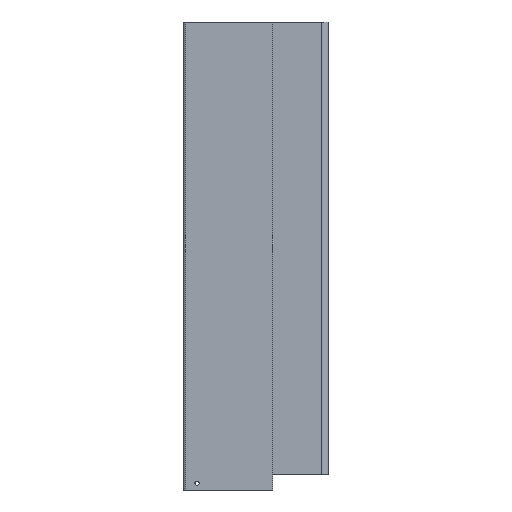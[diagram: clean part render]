
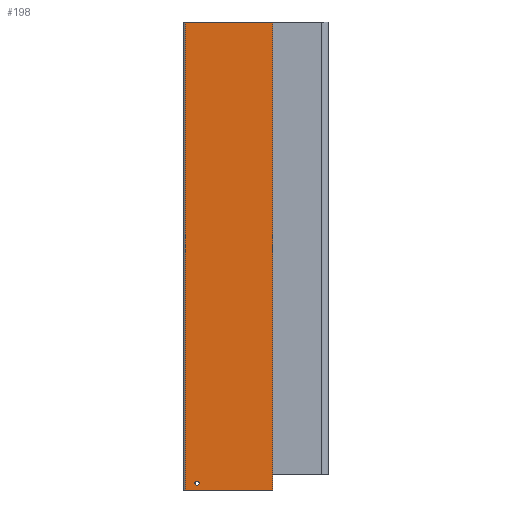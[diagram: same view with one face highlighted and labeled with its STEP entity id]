
A CAD part, left-side view. The second image highlights one B-rep face of the part: STEP entity #198.
In plain terms, the highlighted planar face has unit normal (-1, 0.011, 0).
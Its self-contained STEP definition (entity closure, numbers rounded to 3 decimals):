
#8 = DIRECTION ( 'NONE',  ( -0.011, -1., 0. ) ) ;
#24 = CARTESIAN_POINT ( 'NONE',  ( -8.015, 14.62, -547.5 ) ) ;
#34 = VERTEX_POINT ( 'NONE', #698 ) ;
#44 = CARTESIAN_POINT ( 'NONE',  ( -8.015, 14.62, -699.403 ) ) ;
#58 = CARTESIAN_POINT ( 'NONE',  ( -8.106, 6., -542. ) ) ;
#74 = CARTESIAN_POINT ( 'NONE',  ( -9.1, -87.495, 0. ) ) ;
#88 = EDGE_LOOP ( 'NONE', ( #360, #617, #123, #423 ) ) ;
#91 =( BOUNDED_CURVE ( )  B_SPLINE_CURVE ( 3, ( #688, #286, #636, #173 ),
 .UNSPECIFIED., .F., .T. ) 
 B_SPLINE_CURVE_WITH_KNOTS ( ( 4, 4 ),
 ( 1.571, 4.712 ),
 .UNSPECIFIED. ) 
 CURVE ( )  GEOMETRIC_REPRESENTATION_ITEM ( )  RATIONAL_B_SPLINE_CURVE ( ( 1., 0.333, 0.333, 1. ) ) 
 REPRESENTATION_ITEM ( '' )  );
#119 = VERTEX_POINT ( 'NONE', #825 ) ;
#123 = ORIENTED_EDGE ( 'NONE', *, *, #787, .F. ) ;
#129 = AXIS2_PLACEMENT_3D ( 'NONE', #784, #478, #8 ) ;
#167 = CARTESIAN_POINT ( 'NONE',  ( -8.015, 14.62, 0. ) ) ;
#171 = PLANE ( 'NONE',  #129 ) ;
#173 = CARTESIAN_POINT ( 'NONE',  ( -8.159, 1., -537. ) ) ;
#175 = DIRECTION ( 'NONE',  ( 0., 0., 1. ) ) ;
#179 = EDGE_CURVE ( 'NONE', #119, #203, #91, .T. ) ;
#184 = CARTESIAN_POINT ( 'NONE',  ( -9.1, -87.495, -699.403 ) ) ;
#198 = ADVANCED_FACE ( 'NONE', ( #585, #405 ), #171, .F. ) ;
#203 = VERTEX_POINT ( 'NONE', #581 ) ;
#264 = LINE ( 'NONE', #24, #781 ) ;
#266 = VERTEX_POINT ( 'NONE', #726 ) ;
#286 = CARTESIAN_POINT ( 'NONE',  ( -8.213, -4., -542. ) ) ;
#305 = CARTESIAN_POINT ( 'NONE',  ( -8.015, 14.62, -547.5 ) ) ;
#309 = EDGE_CURVE ( 'NONE', #34, #495, #857, .T. ) ;
#312 = VECTOR ( 'NONE', #653, 1000. ) ;
#342 = EDGE_CURVE ( 'NONE', #203, #119, #410, .T. ) ;
#360 = ORIENTED_EDGE ( 'NONE', *, *, #309, .T. ) ;
#373 = ORIENTED_EDGE ( 'NONE', *, *, #342, .F. ) ;
#405 = FACE_OUTER_BOUND ( 'NONE', #88, .T. ) ;
#410 =( BOUNDED_CURVE ( )  B_SPLINE_CURVE ( 3, ( #797, #455, #58, #529 ),
 .UNSPECIFIED., .F., .T. ) 
 B_SPLINE_CURVE_WITH_KNOTS ( ( 4, 4 ),
 ( 4.712, 7.854 ),
 .UNSPECIFIED. ) 
 CURVE ( )  GEOMETRIC_REPRESENTATION_ITEM ( )  RATIONAL_B_SPLINE_CURVE ( ( 1., 0.333, 0.333, 1. ) ) 
 REPRESENTATION_ITEM ( '' )  );
#423 = ORIENTED_EDGE ( 'NONE', *, *, #591, .F. ) ;
#455 = CARTESIAN_POINT ( 'NONE',  ( -8.106, 6., -537. ) ) ;
#472 = VECTOR ( 'NONE', #499, 1000. ) ;
#478 = DIRECTION ( 'NONE',  ( 1., -0.011, 0. ) ) ;
#489 = ORIENTED_EDGE ( 'NONE', *, *, #179, .F. ) ;
#495 = VERTEX_POINT ( 'NONE', #74 ) ;
#499 = DIRECTION ( 'NONE',  ( -0.011, -1., 0. ) ) ;
#529 = CARTESIAN_POINT ( 'NONE',  ( -8.159, 1., -542. ) ) ;
#567 = DIRECTION ( 'NONE',  ( 0.011, 1., 0. ) ) ;
#581 = CARTESIAN_POINT ( 'NONE',  ( -8.159, 1., -537. ) ) ;
#585 = FACE_BOUND ( 'NONE', #672, .T. ) ;
#591 = EDGE_CURVE ( 'NONE', #34, #773, #264, .T. ) ;
#612 = LINE ( 'NONE', #44, #792 ) ;
#617 = ORIENTED_EDGE ( 'NONE', *, *, #705, .F. ) ;
#636 = CARTESIAN_POINT ( 'NONE',  ( -8.213, -4., -537. ) ) ;
#647 = LINE ( 'NONE', #167, #472 ) ;
#653 = DIRECTION ( 'NONE',  ( 0., 0., 1. ) ) ;
#672 = EDGE_LOOP ( 'NONE', ( #373, #489 ) ) ;
#688 = CARTESIAN_POINT ( 'NONE',  ( -8.159, 1., -542. ) ) ;
#698 = CARTESIAN_POINT ( 'NONE',  ( -9.1, -87.495, -547.5 ) ) ;
#705 = EDGE_CURVE ( 'NONE', #266, #495, #647, .T. ) ;
#726 = CARTESIAN_POINT ( 'NONE',  ( -8.015, 14.62, 0. ) ) ;
#773 = VERTEX_POINT ( 'NONE', #305 ) ;
#781 = VECTOR ( 'NONE', #567, 1000. ) ;
#784 = CARTESIAN_POINT ( 'NONE',  ( -8.015, 14.62, -699.403 ) ) ;
#787 = EDGE_CURVE ( 'NONE', #773, #266, #612, .T. ) ;
#792 = VECTOR ( 'NONE', #175, 1000. ) ;
#797 = CARTESIAN_POINT ( 'NONE',  ( -8.159, 1., -537. ) ) ;
#825 = CARTESIAN_POINT ( 'NONE',  ( -8.159, 1., -542. ) ) ;
#857 = LINE ( 'NONE', #184, #312 ) ;
